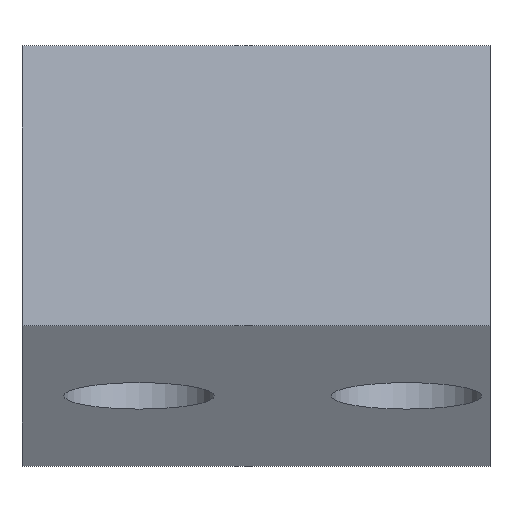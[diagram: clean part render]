
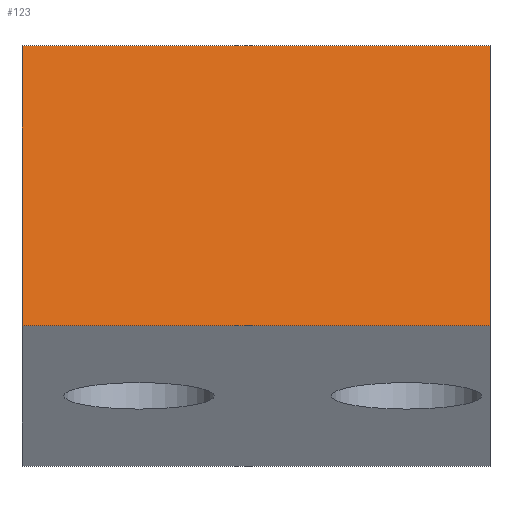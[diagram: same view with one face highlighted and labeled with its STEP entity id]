
A CAD part, top view. The second image highlights one B-rep face of the part: STEP entity #123.
In plain terms, the highlighted planar face has unit normal (0, 0.174, 0.985).
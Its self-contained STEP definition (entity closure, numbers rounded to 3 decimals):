
#67=CARTESIAN_POINT('',(-408.5,194.776,1635.315));
#68=VERTEX_POINT('',#67);
#75=CARTESIAN_POINT('',(-408.5,178.034,1638.267));
#76=VERTEX_POINT('',#75);
#77=CARTESIAN_POINT('',(-408.5,194.776,1635.315));
#78=DIRECTION('',(0.0,-0.985,0.174));
#79=VECTOR('',#78,1.);
#80=LINE('',#77,#79);
#81=EDGE_CURVE('',#68,#76,#80,.T.);
#93=CARTESIAN_POINT('',(-408.5,194.776,1635.315));
#94=DIRECTION('',(0.0,0.174,0.985));
#95=DIRECTION('',(-1.0,0.0,0.0));
#96=AXIS2_PLACEMENT_3D('',#93,#94,#95);
#97=PLANE('',#96);
#98=CARTESIAN_POINT('',(-436.5,194.776,1635.315));
#99=VERTEX_POINT('',#98);
#100=CARTESIAN_POINT('',(-408.5,194.776,1635.315));
#101=DIRECTION('',(-1.0,0.,0.));
#102=VECTOR('',#101,1.);
#103=LINE('',#100,#102);
#104=EDGE_CURVE('',#68,#99,#103,.T.);
#105=ORIENTED_EDGE('',*,*,#104,.T.);
#106=CARTESIAN_POINT('',(-436.5,178.034,1638.267));
#107=VERTEX_POINT('',#106);
#108=CARTESIAN_POINT('',(-436.5,194.776,1635.315));
#109=DIRECTION('',(0.0,-0.985,0.174));
#110=VECTOR('',#109,1.);
#111=LINE('',#108,#110);
#112=EDGE_CURVE('',#99,#107,#111,.T.);
#113=ORIENTED_EDGE('',*,*,#112,.T.);
#114=CARTESIAN_POINT('',(-408.5,178.034,1638.267));
#115=DIRECTION('',(-1.0,0.,0.));
#116=VECTOR('',#115,1.);
#117=LINE('',#114,#116);
#118=EDGE_CURVE('',#76,#107,#117,.T.);
#119=ORIENTED_EDGE('',*,*,#118,.F.);
#120=ORIENTED_EDGE('',*,*,#81,.F.);
#121=EDGE_LOOP('',(#105,#113,#119,#120));
#122=FACE_BOUND('',#121,.T.);
#123=ADVANCED_FACE('',(#122),#97,.T.);
